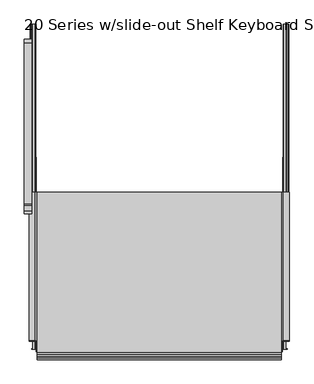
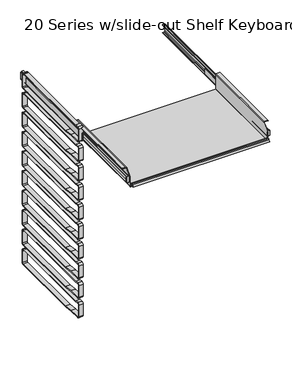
"""IFC4 building model written with IfcOpenShell, lengths in millimetres: furniture geometry, HermanMiller_Carts_CTT_StorageandTechnologyCart : 20 Series w/slide-out Shelf Keyboard Shelf."""

from ifc_helpers import new_model, si_unit, point, frame, frame_2d, origin, place, context, project, spatial, polyline, circle_curve, ellipse_curve, trimmed, segment, composite_curve, outline, extrude, source, transform, mapped, element, save
from ifc_brep_helpers import plane_surface, cylinder_surface, revolved_surface, advanced_brep


def furniture_20_series_w_slide_out_shelf_keyboard_shelf_ee3652f7(model_context):
    return source(origin(), model_context, "Body", "SolidModel", [
        extrude(outline(polyline([(602.3829111, -201.6296804), (594.00091, -201.6296804), (594.00091, -200.3596816), (602.3829111, -200.3596816), (602.3829111, -201.6296804)])), frame((0.0, 0.0, 935.0411093), z_axis=(0.0, 0.0, 1.0), x_axis=(1.0, 0.0, 0.0)), (0.0, 0.0, 1.0), 19.05),
        extrude(outline(composite_curve([segment(polyline([(956.6310705, 599.4619048), (956.6310705, 594.2680389)]), True, "CONTINUOUS"), segment(trimmed(circle_curve(frame_2d((955.2992133, 594.2680389)), 1.3318573), [point((956.6310705, 594.2680389))], [point((955.2992133, 592.9361817))], False, "CARTESIAN"), True, "CONTINUOUS"), segment(polyline([(955.2992133, 592.9361817), (934.0076575, 592.9361817)]), True, "CONTINUOUS"), segment(trimmed(circle_curve(frame_2d((934.0076575, 594.4427638)), 1.5065821), [point((934.0076575, 592.9361817))], [point((932.5010754, 594.4427638))], False, "CARTESIAN"), True, "CONTINUOUS"), segment(polyline([(932.5010754, 594.4427638), (932.5010754, 599.4619048), (933.771056, 599.4619048), (933.771056, 594.00091), (955.3610899, 594.00091), (955.3610899, 599.4619048), (956.6310705, 599.4619048)]), True, "CONTINUOUS")], self_intersect=False)), frame((0.0, -201.6296804, 0.0), z_axis=(0.0, 1.0, 0.0), x_axis=(0.0, 0.0, 1.0)), (0.0, 0.0, 1.0), 396.8927799),
        extrude(outline(composite_curve([segment(polyline([(123.5080953, 919.7655155), (-209.7526039, 919.7655155), (-209.7526039, 931.1628222)]), True, "CONTINUOUS"), segment(trimmed(circle_curve(frame_2d((-211.0604083, 931.1628222)), 1.3078044), [point((-209.7526039, 931.1628222))], [point((-211.0604083, 932.4706266))], True, "CARTESIAN"), True, "CONTINUOUS"), segment(polyline([(-211.0604083, 932.4706266), (-215.7021569, 932.4706266)]), True, "CONTINUOUS"), segment(trimmed(circle_curve(frame_2d((-215.7021569, 930.3035413)), 2.1670854), [point((-215.7021569, 932.4706266))], [point((-217.5789081, 931.3870836))], True, "CARTESIAN"), True, "CONTINUOUS"), segment(polyline([(-217.5789081, 931.3870836), (-221.5226627, 924.5562974), (-222.8380879, 925.3157581), (-218.8374368, 932.2450919)]), True, "CONTINUOUS"), segment(trimmed(circle_curve(frame_2d((-215.8160306, 930.5006829)), 3.488819), [point((-218.8374368, 932.2450919))], [point((-215.8160306, 933.989502))], False, "CARTESIAN"), True, "CONTINUOUS"), segment(polyline([(-215.8160306, 933.989502), (-211.2428355, 933.989502)]), True, "CONTINUOUS"), segment(trimmed(circle_curve(frame_2d((-211.2428355, 930.9803587)), 3.0091432), [point((-211.2428355, 933.989502))], [point((-208.2336923, 930.9803587))], False, "CARTESIAN"), True, "CONTINUOUS"), segment(polyline([(-208.2336923, 930.9803587), (-208.2336923, 921.940753)]), True, "CONTINUOUS"), segment(trimmed(circle_curve(frame_2d((-207.0795407, 921.940753)), 1.1541516), [point((-208.2336923, 921.940753))], [point((-207.0795407, 920.7866014))], True, "CARTESIAN"), True, "CONTINUOUS"), segment(polyline([(-207.0795407, 920.7866014), (123.5080953, 920.7866014), (123.5080953, 919.7655155)]), True, "CONTINUOUS")], self_intersect=False)), frame((85.5702436, 0.0, 0.0), z_axis=(1.0, 0.0, 0.0), x_axis=(0.0, 1.0, 0.0)), (0.0, 0.0, 1.0), 504.5709892),
        extrude(outline(composite_curve([segment(trimmed(circle_curve(frame_2d((956.5209557, 602.3909193)), 3.0399889), [point((956.5209557, 605.4309082))], [point((959.457372, 603.1776794))], False, "CARTESIAN"), True, "CONTINUOUS"), segment(polyline([(959.457372, 603.1776794), (960.0980101, 600.7866331), (960.9296608, 599.8340906)]), True, "CONTINUOUS"), segment(trimmed(circle_curve(frame_2d((958.2402234, 597.4859827)), 3.57025), [point((960.9296608, 599.8340906))], [point((960.6549191, 594.8561672))], False, "CARTESIAN"), True, "CONTINUOUS"), segment(polyline([(960.6549191, 594.8561672), (959.723469, 594.00091), (959.1312086, 595.1243697), (959.7214513, 595.6886846)]), True, "CONTINUOUS"), segment(trimmed(circle_curve(frame_2d((957.9812682, 597.5088217)), 2.5181613), [point((959.7214513, 595.6886846))], [point((959.6259905, 599.4156581))], True, "CARTESIAN"), True, "CONTINUOUS"), segment(polyline([(959.6259905, 599.4156581), (959.0076696, 599.9489844), (958.3335089, 602.4650204)]), True, "CONTINUOUS"), segment(trimmed(circle_curve(frame_2d((956.123391, 601.872829)), 2.2880803), [point((958.3335089, 602.4650204))], [point((956.123391, 604.1609094))], True, "CARTESIAN"), True, "CONTINUOUS"), segment(polyline([(956.123391, 604.1609094), (933.0149847, 604.1609094)]), True, "CONTINUOUS"), segment(trimmed(circle_curve(frame_2d((933.0149847, 601.872829)), 2.2880803), [point((933.0149847, 604.1609094))], [point((930.8048668, 602.4650204))], True, "CARTESIAN"), True, "CONTINUOUS"), segment(polyline([(930.8048668, 602.4650204), (930.1307061, 599.9489844), (929.5123852, 599.4156581)]), True, "CONTINUOUS"), segment(trimmed(circle_curve(frame_2d((931.1571075, 597.5088217)), 2.5181613), [point((929.5123852, 599.4156581))], [point((929.4169244, 595.6886846))], True, "CARTESIAN"), True, "CONTINUOUS"), segment(polyline([(929.4169244, 595.6886846), (930.0071671, 595.1243697), (929.4149067, 594.00091), (928.4834566, 594.8561672)]), True, "CONTINUOUS"), segment(trimmed(circle_curve(frame_2d((930.8981523, 597.4859827)), 3.57025), [point((928.4834566, 594.8561672))], [point((928.2087149, 599.8340906))], False, "CARTESIAN"), True, "CONTINUOUS"), segment(polyline([(928.2087149, 599.8340906), (929.0403656, 600.7866331), (929.6810037, 603.1776794)]), True, "CONTINUOUS"), segment(trimmed(circle_curve(frame_2d((932.61742, 602.3909193)), 3.0399889), [point((929.6810037, 603.1776794))], [point((932.61742, 605.4309082))], False, "CARTESIAN"), True, "CONTINUOUS"), segment(polyline([(932.61742, 605.4309082), (956.5209557, 605.4309082)]), True, "CONTINUOUS")], self_intersect=False)), frame((0.0, 77.7880935, 0.0), z_axis=(0.0, 1.0, 0.0), x_axis=(0.0, 0.0, 1.0)), (0.0, 0.0, 1.0), 392.4300073),
        extrude(outline(composite_curve([segment(polyline([(956.5209557, 70.33024), (932.61742, 70.33024)]), True, "CONTINUOUS"), segment(trimmed(circle_curve(frame_2d((932.61742, 73.3702288)), 3.0399889), [point((932.61742, 70.33024))], [point((929.6810037, 72.5834687))], False, "CARTESIAN"), True, "CONTINUOUS"), segment(polyline([(929.6810037, 72.5834687), (929.0403656, 74.974515), (928.2087149, 75.9270575)]), True, "CONTINUOUS"), segment(trimmed(circle_curve(frame_2d((930.8981523, 78.2751655)), 3.57025), [point((928.2087149, 75.9270575))], [point((928.4834566, 80.9049809))], False, "CARTESIAN"), True, "CONTINUOUS"), segment(polyline([(928.4834566, 80.9049809), (929.4149067, 81.7602381), (930.0071671, 80.6367784), (929.4169244, 80.0724635)]), True, "CONTINUOUS"), segment(trimmed(circle_curve(frame_2d((931.1571075, 78.2523264)), 2.5181613), [point((929.4169244, 80.0724635))], [point((929.5123852, 76.34549))], True, "CARTESIAN"), True, "CONTINUOUS"), segment(polyline([(929.5123852, 76.34549), (930.1307061, 75.8121637), (930.8048668, 73.2961278)]), True, "CONTINUOUS"), segment(trimmed(circle_curve(frame_2d((933.0149847, 73.8883191)), 2.2880803), [point((930.8048668, 73.2961278))], [point((933.0149847, 71.6002387))], True, "CARTESIAN"), True, "CONTINUOUS"), segment(polyline([(933.0149847, 71.6002387), (956.123391, 71.6002387)]), True, "CONTINUOUS"), segment(trimmed(circle_curve(frame_2d((956.123391, 73.8883191)), 2.2880803), [point((956.123391, 71.6002387))], [point((958.3335089, 73.2961278))], True, "CARTESIAN"), True, "CONTINUOUS"), segment(polyline([(958.3335089, 73.2961278), (959.0076696, 75.8121637), (959.6259905, 76.34549)]), True, "CONTINUOUS"), segment(trimmed(circle_curve(frame_2d((957.9812682, 78.2523264)), 2.5181613), [point((959.6259905, 76.34549))], [point((959.7214513, 80.0724635))], True, "CARTESIAN"), True, "CONTINUOUS"), segment(polyline([(959.7214513, 80.0724635), (959.1312086, 80.6367784), (959.723469, 81.7602381), (960.6549191, 80.9049809)]), True, "CONTINUOUS"), segment(trimmed(circle_curve(frame_2d((958.2402234, 78.2751655)), 3.57025), [point((960.6549191, 80.9049809))], [point((960.9296608, 75.9270575))], False, "CARTESIAN"), True, "CONTINUOUS"), segment(polyline([(960.9296608, 75.9270575), (960.0980101, 74.974515), (959.457372, 72.5834687)]), True, "CONTINUOUS"), segment(trimmed(circle_curve(frame_2d((956.5209557, 73.3702288)), 3.0399889), [point((959.457372, 72.5834687))], [point((956.5209557, 70.33024))], False, "CARTESIAN"), True, "CONTINUOUS")], self_intersect=False)), frame((0.0, 77.7880935, 0.0), z_axis=(0.0, 1.0, 0.0), x_axis=(0.0, 0.0, 1.0)), (0.0, 0.0, 1.0), 392.4300073),
        advanced_brep(
        [(76.2992434, -201.6296804, 956.6310705), (76.2992434, -201.6296804, 955.3610899), (81.7602381, -201.6296804, 955.3610899), (81.7602381, -201.6296804, 954.0911093), (73.3782371, -201.6296804, 954.0911093), (73.3782371, -201.6296804, 935.0411093), (81.7602381, -201.6296804, 935.0411093), (81.7602381, -201.6296804, 933.771056), (76.2992434, -201.6296804, 933.771056), (76.2992434, -201.6296804, 932.5010754), (81.3183843, -201.6296804, 932.5010754), (82.8249665, -201.6296804, 934.0076575), (82.8249665, -201.6296804, 955.2992133), (81.4931092, -201.6296804, 956.6310705), (76.2992434, 195.2630995, 956.6310705), (81.4931092, 195.2630995, 956.6310705), (82.8249665, 195.2630995, 955.2992133), (82.8249665, 195.2630995, 934.0076575), (81.3183843, 195.2630995, 932.5010754), (76.2992434, 195.2630995, 932.5010754), (76.2992434, 195.2630995, 933.771056), (81.7602381, 195.2630995, 933.771056), (81.7602381, 195.2630995, 955.3610899), (76.2992434, 195.2630995, 955.3610899), (81.7602381, -200.3596816, 935.0411093), (81.7602381, -200.3596816, 954.0911093), (73.3782371, -200.3596816, 954.0911093), (73.3782371, -200.3596816, 935.0411093)],
        [
            (0, 1),
            (1, 2),
            (2, 3),
            (3, 4),
            (4, 5),
            (5, 6),
            (6, 7),
            (7, 8),
            (8, 9),
            (9, 10),
            (10, 11, circle_curve(frame((81.3183843, -201.6296804, 934.0076575), z_axis=(0.0, -1.0, 0.0), x_axis=(1.0, 0.0, 0.0)), 1.5065821)),
            (11, 12),
            (12, 13, circle_curve(frame((81.4931092, -201.6296804, 955.2992133), z_axis=(0.0, -1.0, 0.0), x_axis=(1.0, 0.0, 0.0)), 1.3318573)),
            (13, 0),
            (14, 15),
            (15, 16, circle_curve(frame((81.4931092, 195.2630995, 955.2992133), z_axis=(0.0, 1.0, 0.0), x_axis=(1.0, 0.0, 0.0)), 1.3318573)),
            (16, 17),
            (17, 18, circle_curve(frame((81.3183843, 195.2630995, 934.0076575), z_axis=(0.0, 1.0, 0.0), x_axis=(1.0, 0.0, 0.0)), 1.5065821)),
            (18, 19),
            (19, 20),
            (20, 21),
            (21, 22),
            (22, 23),
            (23, 14),
            (0, 14),
            (23, 1),
            (22, 2),
            (21, 7),
            (6, 24),
            (24, 25),
            (25, 3),
            (20, 8),
            (19, 9),
            (18, 10),
            (17, 11),
            (16, 12),
            (15, 13),
            (26, 25),
            (24, 27),
            (27, 26),
            (27, 5),
            (4, 26),
        ],
        [
            plane_surface(frame((76.2992434, -201.6296804, 956.6310705), z_axis=(0.0, -1.0, 0.0), x_axis=(0.0, 0.0, -1.0))),
            plane_surface(frame((76.2992434, 195.2630995, 956.6310705), z_axis=(0.0, 1.0, 0.0), x_axis=(0.0, 0.0, 1.0))),
            plane_surface(frame((76.2992434, -201.6296804, 956.6310705), z_axis=(-1.0, 0.0, 0.0), x_axis=(0.0, 1.0, 0.0))),
            plane_surface(frame((76.2992434, -201.6296804, 955.3610899), z_axis=(0.0, 0.0, -1.0), x_axis=(0.0, 1.0, 0.0))),
            plane_surface(frame((81.7602381, -201.6296804, 955.3610899), z_axis=(-1.0, 0.0, 0.0), x_axis=(0.0, 1.0, 0.0))),
            plane_surface(frame((81.7602381, -201.6296804, 933.771056), z_axis=(0.0, 0.0, 1.0), x_axis=(0.0, 1.0, 0.0))),
            plane_surface(frame((76.2992434, -201.6296804, 933.771056), z_axis=(-1.0, 0.0, 0.0), x_axis=(0.0, 1.0, 0.0))),
            plane_surface(frame((76.2992434, -201.6296804, 932.5010754), z_axis=(0.0, 0.0, -1.0), x_axis=(0.0, 1.0, 0.0))),
            cylinder_surface(frame((81.3183843, 195.2630995, 934.0076575), z_axis=(0.0, -1.0, 0.0), x_axis=(1.0, 0.0, 0.0)), 1.5065821),
            plane_surface(frame((82.8249665, -201.6296804, 934.0076575), z_axis=(1.0, 0.0, 0.0), x_axis=(0.0, 1.0, 0.0))),
            cylinder_surface(frame((81.4931092, 195.2630995, 955.2992133), z_axis=(0.0, -1.0, 0.0), x_axis=(1.0, 0.0, 0.0)), 1.3318573),
            plane_surface(frame((81.4931092, -201.6296804, 956.6310705), z_axis=(0.0, 0.0, 1.0), x_axis=(0.0, 1.0, 0.0))),
            plane_surface(frame((73.3782371, -200.3596816, 954.0911093), z_axis=(0.0, 1.0, 0.0), x_axis=(0.0, 0.0, 1.0))),
            plane_surface(frame((73.3782371, -201.6296804, 954.0911093), z_axis=(-1.0, 0.0, 0.0), x_axis=(0.0, 1.0, 0.0))),
            plane_surface(frame((73.3782371, -201.6296804, 935.0411093), z_axis=(0.0, 0.0, -1.0), x_axis=(0.0, 1.0, 0.0))),
            plane_surface(frame((81.7602381, -201.6296804, 954.0911093), z_axis=(0.0, 0.0, 1.0), x_axis=(0.0, 1.0, 0.0))),
        ],
        [
            (0, [[1, 2, 3, 4, 5, 6, 7, 8, 9, 10, 11, 12, 13, 14]]),
            (1, [[15, 16, 17, 18, 19, 20, 21, 22, 23, 24]]),
            (2, [[-1, 25, -24, 26]]),
            (3, [[-2, -26, -23, 27]]),
            (4, [[-22, 28, -7, 29, 30, 31, -3, -27]]),
            (5, [[-8, -28, -21, 32]]),
            (6, [[-9, -32, -20, 33]]),
            (7, [[-10, -33, -19, 34]]),
            (8, [[-11, -34, -18, 35]]),
            (9, [[-12, -35, -17, 36]]),
            (10, [[-13, -36, -16, 37]]),
            (11, [[-14, -37, -15, -25]]),
            (12, [[38, -30, 39, 40]]),
            (13, [[-40, 41, -5, 42]]),
            (14, [[-39, -29, -6, -41]]),
            (15, [[-38, -42, -4, -31]]),
        ],
    ),
        advanced_brep(
        [(591.1548847, -206.7096937, 920.7866014), (590.1337988, -206.7096937, 919.7655155), (85.3650004, -206.7096937, 919.7655155), (84.3439145, -206.7096937, 920.7866014), (84.3439145, -206.7096937, 954.4452161), (82.8249665, -206.7096937, 954.4452161), (82.8249665, -206.7096937, 920.9919173), (85.5702436, -206.7096937, 918.2466402), (589.9285556, -206.7096937, 918.2466402), (592.6738327, -206.7096937, 920.9919173), (592.6738327, -206.7096937, 954.4452161), (591.1548847, -206.7096937, 954.4452161), (591.1548847, 123.5080953, 920.7866014), (591.1548847, 123.5080953, 977.313101), (594.0643648, 123.5080953, 980.2225811), (607.0298605, 123.5080953, 980.2225811), (607.0298605, 123.5080953, 978.7037058), (594.4225259, 123.5080953, 978.7037058), (592.6738327, 123.5080953, 976.9550126), (592.6738327, 123.5080953, 920.9919173), (589.9285556, 123.5080953, 918.2466402), (85.5702436, 123.5080953, 918.2466402), (82.8249665, 123.5080953, 920.9919173), (82.8249665, 123.5080953, 976.9550126), (81.0762733, 123.5080953, 978.7037058), (68.4689387, 123.5080953, 978.7037058), (68.4689387, 123.5080953, 980.2225811), (81.4344344, 123.5080953, 980.2225811), (84.3439145, 123.5080953, 977.313101), (84.3439145, 123.5080953, 920.7866014), (85.3650004, 123.5080953, 919.7655155), (590.1337988, 123.5080953, 919.7655155), (84.3439145, -185.7431785, 977.313101), (84.3439145, -202.9899353, 960.066326), (81.4344344, -182.8337016, 980.2225811), (68.4689387, -182.8337016, 980.2225811), (68.4689387, -184.3525753, 978.7037058), (81.0762733, -184.3525753, 978.7037058), (82.8249665, -186.1012666, 976.9550126), (82.8249665, -202.9899353, 960.066326), (592.6738327, -186.1012666, 976.9550126), (592.6738327, -202.9899353, 960.066326), (594.4225259, -184.3525753, 978.7037058), (607.0298605, -184.3525753, 978.7037058), (607.0298605, -182.8337016, 980.2225811), (594.0643648, -182.8337016, 980.2225811), (591.1548847, -185.7431785, 977.313101), (591.1548847, -202.9899353, 960.066326)],
        [
            (0, 1),
            (1, 2),
            (2, 3),
            (3, 4),
            (4, 5),
            (5, 6),
            (6, 7, circle_curve(frame((85.5702436, -206.7096937, 920.9919173), z_axis=(0.0, -1.0, 0.0), x_axis=(1.0, 0.0, 0.0)), 2.7452771)),
            (7, 8),
            (8, 9, circle_curve(frame((589.9285556, -206.7096937, 920.9919173), z_axis=(0.0, -1.0, 0.0), x_axis=(1.0, 0.0, 0.0)), 2.7452771)),
            (9, 10),
            (10, 11),
            (11, 0),
            (12, 13),
            (13, 14, circle_curve(frame((594.0643648, 123.5080953, 977.313101), z_axis=(0.0, 1.0, 0.0), x_axis=(1.0, 0.0, 0.0)), 2.9094801)),
            (14, 15),
            (15, 16),
            (16, 17),
            (17, 18, circle_curve(frame((594.4225259, 123.5080953, 976.9550126), z_axis=(0.0, -1.0, 0.0), x_axis=(1.0, 0.0, 0.0)), 1.7486932)),
            (18, 19),
            (19, 20, circle_curve(frame((589.9285556, 123.5080953, 920.9919173), z_axis=(0.0, 1.0, 0.0), x_axis=(1.0, 0.0, 0.0)), 2.7452771)),
            (20, 21),
            (21, 22, circle_curve(frame((85.5702436, 123.5080953, 920.9919173), z_axis=(0.0, 1.0, 0.0), x_axis=(1.0, 0.0, 0.0)), 2.7452771)),
            (22, 23),
            (23, 24, circle_curve(frame((81.0762733, 123.5080953, 976.9550126), z_axis=(0.0, -1.0, 0.0), x_axis=(1.0, 0.0, 0.0)), 1.7486932)),
            (24, 25),
            (25, 26),
            (26, 27),
            (27, 28, circle_curve(frame((81.4344344, 123.5080953, 977.313101), z_axis=(0.0, 1.0, 0.0), x_axis=(1.0, 0.0, 0.0)), 2.9094801)),
            (28, 29),
            (29, 30),
            (30, 31),
            (31, 12),
            (0, 12),
            (31, 1),
            (30, 2),
            (29, 3),
            (28, 32),
            (32, 33),
            (33, 4, circle_curve(frame((84.3439145, -191.0422174, 948.1186207), z_axis=(1.0, 0.0, 0.0), x_axis=(0.0, -1.0, 0.0)), 16.8966158)),
            (27, 34),
            (34, 32, ellipse_curve(frame((81.4344344, -185.7431785, 977.313101), z_axis=(0.0, 0.7071071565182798, -0.7071064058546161), x_axis=(0.0, -0.7071064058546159, -0.70710715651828)), 4.114624, 2.9094801)),
            (26, 35),
            (35, 34),
            (25, 36),
            (36, 35),
            (24, 37),
            (37, 36),
            (23, 38),
            (38, 37, ellipse_curve(frame((81.0762733, -186.1012666, 976.9550126), z_axis=(0.0, -0.7071071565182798, 0.7071064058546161), x_axis=(0.0, 0.7071064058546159, 0.70710715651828)), 2.4730243, 1.7486932)),
            (22, 6),
            (5, 39, circle_curve(frame((82.8249665, -191.0422174, 948.1186207), z_axis=(-1.0, 0.0, 0.0), x_axis=(0.0, -1.0, 0.0)), 16.8966158)),
            (39, 38),
            (21, 7),
            (20, 8),
            (19, 9),
            (18, 40),
            (40, 41),
            (41, 10, circle_curve(frame((592.6738327, -191.0422174, 948.1186207), z_axis=(1.0, 0.0, 0.0), x_axis=(0.0, -1.0, 0.0)), 16.8966158)),
            (17, 42),
            (42, 40, ellipse_curve(frame((594.4225259, -186.1012666, 976.9550126), z_axis=(0.0, -0.7071071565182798, 0.7071064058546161), x_axis=(0.0, 0.7071064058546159, 0.70710715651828)), 2.4730243, 1.7486932)),
            (16, 43),
            (43, 42),
            (15, 44),
            (44, 43),
            (14, 45),
            (45, 44),
            (13, 46),
            (46, 45, ellipse_curve(frame((594.0643648, -185.7431785, 977.313101), z_axis=(0.0, 0.7071071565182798, -0.7071064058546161), x_axis=(0.0, -0.7071064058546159, -0.70710715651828)), 4.114624, 2.9094801)),
            (11, 47, circle_curve(frame((591.1548847, -191.0422174, 948.1186207), z_axis=(-1.0, 0.0, 0.0), x_axis=(0.0, -1.0, 0.0)), 16.8966158)),
            (47, 46),
            (39, 33),
            (47, 41),
        ],
        [
            plane_surface(frame((590.1337988, -206.7096937, 919.7655155), z_axis=(0.0, -1.0, 0.0), x_axis=(-0.7071067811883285, 0.0, -0.7071067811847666))),
            plane_surface(frame((590.1337988, 123.5080953, 919.7655155), z_axis=(0.0, 1.0, 0.0), x_axis=(0.7071067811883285, 0.0, 0.7071067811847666))),
            plane_surface(frame((591.1548847, -206.7096937, 920.7866014), z_axis=(-0.7071067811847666, 0.0, 0.7071067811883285), x_axis=(0.0, 1.0, 0.0))),
            plane_surface(frame((590.1337988, -206.7096937, 919.7655155), z_axis=(0.0, 0.0, 1.0), x_axis=(0.0, 1.0, 0.0))),
            plane_surface(frame((85.3650004, -206.7096937, 919.7655155), z_axis=(0.7071067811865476, 0.0, 0.7071067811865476), x_axis=(0.0, 1.0, 0.0))),
            plane_surface(frame((84.3439145, -206.7096937, 920.7866014), z_axis=(1.0, 0.0, 0.0), x_axis=(0.0, 1.0, 0.0))),
            cylinder_surface(frame((81.4344344, 123.5080953, 977.313101), z_axis=(0.0, -1.0, 0.0), x_axis=(1.0, 0.0, 0.0)), 2.9094801),
            plane_surface(frame((81.4344344, -206.7096937, 980.2225811), z_axis=(0.0, 0.0, 1.0), x_axis=(0.0, 1.0, 0.0))),
            plane_surface(frame((68.4689387, -206.7096937, 980.2225811), z_axis=(-1.0, 0.0, 0.0), x_axis=(0.0, 1.0, 0.0))),
            plane_surface(frame((68.4689387, -206.7096937, 978.7037058), z_axis=(0.0, 0.0, -1.0), x_axis=(0.0, 1.0, 0.0))),
            revolved_surface(polyline([(82.8249665, 123.5080953, 976.9550126), (82.8249665, -187.84995792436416, 976.9550126)]), (81.0762733, 123.5080953, 976.9550126), (0.0, 1.0, 0.0)),
            plane_surface(frame((82.8249665, -206.7096937, 976.9550126), z_axis=(-1.0, 0.0, 0.0), x_axis=(0.0, 1.0, 0.0))),
            cylinder_surface(frame((85.5702436, 123.5080953, 920.9919173), z_axis=(0.0, -1.0, 0.0), x_axis=(1.0, 0.0, 0.0)), 2.7452771),
            plane_surface(frame((85.5702436, -206.7096937, 918.2466402), z_axis=(0.0, 0.0, -1.0), x_axis=(0.0, 1.0, 0.0))),
            cylinder_surface(frame((589.9285556, 123.5080953, 920.9919173), z_axis=(0.0, -1.0, 0.0), x_axis=(1.0, 0.0, 0.0)), 2.7452771),
            plane_surface(frame((592.6738327, -206.7096937, 920.9919173), z_axis=(1.0, 0.0, 0.0), x_axis=(0.0, 1.0, 0.0))),
            revolved_surface(polyline([(596.1712191, 123.5080953, 976.9550126), (596.1712191, -187.84995792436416, 976.9550126)]), (594.4225259, 123.5080953, 976.9550126), (0.0, 1.0, 0.0)),
            plane_surface(frame((594.4225259, -206.7096937, 978.7037058), z_axis=(0.0, 0.0, -1.0), x_axis=(0.0, 1.0, 0.0))),
            plane_surface(frame((607.0298605, -206.7096937, 978.7037058), z_axis=(1.0, 0.0, 0.0), x_axis=(0.0, 1.0, 0.0))),
            plane_surface(frame((607.0298605, -206.7096937, 980.2225811), z_axis=(0.0, 0.0, 1.0), x_axis=(0.0, 1.0, 0.0))),
            cylinder_surface(frame((594.0643648, 123.5080953, 977.313101), z_axis=(0.0, -1.0, 0.0), x_axis=(1.0, 0.0, 0.0)), 2.9094801),
            plane_surface(frame((591.1548847, -206.7096937, 977.313101), z_axis=(-1.0, 0.0, 0.0), x_axis=(0.0, 1.0, 0.0))),
            plane_surface(frame((747.8869761, -202.9899353, 960.066326), z_axis=(0.0, -0.7071071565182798, 0.7071064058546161), x_axis=(-1.0, 0.0, 0.0))),
            cylinder_surface(frame((0.0, -191.0422174, 948.1186207), z_axis=(-1.0, 0.0, 0.0), x_axis=(0.0, -1.0, 0.0)), 16.8966158),
        ],
        [
            (0, [[1, 2, 3, 4, 5, 6, 7, 8, 9, 10, 11, 12]]),
            (1, [[13, 14, 15, 16, 17, 18, 19, 20, 21, 22, 23, 24, 25, 26, 27, 28, 29, 30, 31, 32]]),
            (2, [[-1, 33, -32, 34]]),
            (3, [[-2, -34, -31, 35]]),
            (4, [[-3, -35, -30, 36]]),
            (5, [[-29, 37, 38, 39, -4, -36]]),
            (6, [[-28, 40, 41, -37]]),
            (7, [[-27, 42, 43, -40]]),
            (8, [[-26, 44, 45, -42]]),
            (9, [[-25, 46, 47, -44]]),
            (10, [[-24, 48, 49, -46]]),
            (11, [[-23, 50, -6, 51, 52, -48]]),
            (12, [[-7, -50, -22, 53]]),
            (13, [[-8, -53, -21, 54]]),
            (14, [[-9, -54, -20, 55]]),
            (15, [[-19, 56, 57, 58, -10, -55]]),
            (16, [[-18, 59, 60, -56]]),
            (17, [[-17, 61, 62, -59]]),
            (18, [[-16, 63, 64, -61]]),
            (19, [[-15, 65, 66, -63]]),
            (20, [[-14, 67, 68, -65]]),
            (21, [[-13, -33, -12, 69, 70, -67]]),
            (22, [[71, -38, -41, -43, -45, -47, -49, -52]]),
            (22, [[72, -57, -60, -62, -64, -66, -68, -70]]),
            (23, [[-71, -51, -5, -39]]),
            (23, [[-72, -69, -11, -58]]),
        ],
    ),
        extrude(outline(composite_curve([segment(trimmed(circle_curve(frame_2d((432.0829157, 288.6580583)), 7.0967816), [point((432.0829157, 295.7548399))], [point((439.1796973, 288.6580583))], False, "CARTESIAN"), True, "CONTINUOUS"), segment(polyline([(439.1796973, 288.6580583), (439.1796973, 241.5674195)]), True, "CONTINUOUS"), segment(trimmed(circle_curve(frame_2d((432.8296973, 241.5674195)), 6.35), [point((439.1796973, 241.5674195))], [point((432.8296973, 235.2174195))], False, "CARTESIAN"), True, "CONTINUOUS"), segment(polyline([(432.8296973, 235.2174195), (160.5389836, 235.2174195), (125.9538762, 240.0780421), (84.6788762, 240.0780421)]), True, "CONTINUOUS"), segment(trimmed(circle_curve(frame_2d((84.6788762, 246.4280421)), 6.35), [point((84.6788762, 240.0780421))], [point((78.3288762, 246.4280421))], False, "CARTESIAN"), True, "CONTINUOUS"), segment(polyline([(78.3288762, 246.4280421), (78.3288762, 292.452837)]), True, "CONTINUOUS"), segment(trimmed(circle_curve(frame_2d((84.6788762, 292.452837)), 6.35), [point((78.3288762, 292.452837))], [point((84.6788762, 298.802837))], False, "CARTESIAN"), True, "CONTINUOUS"), segment(polyline([(84.6788762, 298.802837), (95.8548777, 298.802837), (98.9028748, 295.7548399), (432.0829157, 295.7548399)]), True, "CONTINUOUS")], self_intersect=False), holes=[composite_curve([segment(polyline([(98.9028748, 291.7670382), (93.351533, 294.8150353), (86.3017102, 294.8150353)]), True, "CONTINUOUS"), segment(trimmed(circle_curve(frame_2d((86.3017102, 290.8300031)), 3.9850323), [point((86.3017102, 294.8150353))], [point((82.3166779, 290.8300031))], True, "CARTESIAN"), True, "CONTINUOUS"), segment(polyline([(82.3166779, 290.8300031), (82.3166779, 248.1093011)]), True, "CONTINUOUS"), segment(trimmed(circle_curve(frame_2d((86.3601352, 248.1093011)), 4.0434573), [point((82.3166779, 248.1093011))], [point((86.3601352, 244.0658438))], True, "CARTESIAN"), True, "CONTINUOUS"), segment(polyline([(86.3601352, 244.0658438), (126.2327291, 244.0658438), (160.8178365, 239.2052211), (431.735191, 239.2052211)]), True, "CONTINUOUS"), segment(trimmed(circle_curve(frame_2d((431.735191, 242.6619258)), 3.4567047), [point((431.735191, 239.2052211))], [point((435.1918957, 242.6619258))], True, "CARTESIAN"), True, "CONTINUOUS"), segment(polyline([(435.1918957, 242.6619258), (435.1918957, 287.9663635)]), True, "CONTINUOUS"), segment(trimmed(circle_curve(frame_2d((431.3912209, 287.9663635)), 3.8006747), [point((435.1918957, 287.9663635))], [point((431.3912209, 291.7670382))], True, "CARTESIAN"), True, "CONTINUOUS"), segment(polyline([(431.3912209, 291.7670382), (98.9028748, 291.7670382)]), True, "CONTINUOUS")], self_intersect=False)]), frame((58.2786012, 0.0, 0.0), z_axis=(1.0, 0.0, 0.0), x_axis=(0.0, 1.0, 0.0)), (0.0, 0.0, 1.0), 15.9147989),
        extrude(outline(composite_curve([segment(polyline([(160.5389836, 311.4174013), (125.9538762, 316.278024), (84.6788762, 316.278024)]), True, "CONTINUOUS"), segment(trimmed(circle_curve(frame_2d((84.6788762, 322.628024)), 6.35), [point((84.6788762, 316.278024))], [point((78.3288762, 322.628024))], False, "CARTESIAN"), True, "CONTINUOUS"), segment(polyline([(78.3288762, 322.628024), (78.3288762, 368.6528188)]), True, "CONTINUOUS"), segment(trimmed(circle_curve(frame_2d((84.6788762, 368.6528188)), 6.35), [point((78.3288762, 368.6528188))], [point((84.6788762, 375.0028188))], False, "CARTESIAN"), True, "CONTINUOUS"), segment(polyline([(84.6788762, 375.0028188), (95.8548777, 375.0028188), (98.9028748, 371.9548217), (432.0829157, 371.9548217)]), True, "CONTINUOUS"), segment(trimmed(circle_curve(frame_2d((432.0829157, 364.8580401)), 7.0967816), [point((432.0829157, 371.9548217))], [point((439.1796973, 364.8580401))], False, "CARTESIAN"), True, "CONTINUOUS"), segment(polyline([(439.1796973, 364.8580401), (439.1796973, 317.7674013)]), True, "CONTINUOUS"), segment(trimmed(circle_curve(frame_2d((432.8296973, 317.7674013)), 6.35), [point((439.1796973, 317.7674013))], [point((432.8296973, 311.4174013))], False, "CARTESIAN"), True, "CONTINUOUS"), segment(polyline([(432.8296973, 311.4174013), (160.5389836, 311.4174013)]), True, "CONTINUOUS")], self_intersect=False), holes=[composite_curve([segment(polyline([(98.9028748, 367.9670201), (93.351533, 371.0150172), (86.3017102, 371.0150172)]), True, "CONTINUOUS"), segment(trimmed(circle_curve(frame_2d((86.3017102, 367.0299849)), 3.9850323), [point((86.3017102, 371.0150172))], [point((82.3166779, 367.0299849))], True, "CARTESIAN"), True, "CONTINUOUS"), segment(polyline([(82.3166779, 367.0299849), (82.3166779, 324.3092829)]), True, "CONTINUOUS"), segment(trimmed(circle_curve(frame_2d((86.3601352, 324.3092829)), 4.0434573), [point((82.3166779, 324.3092829))], [point((86.3601352, 320.2658256))], True, "CARTESIAN"), True, "CONTINUOUS"), segment(polyline([(86.3601352, 320.2658256), (126.2327291, 320.2658256), (160.8178365, 315.405203), (431.735191, 315.405203)]), True, "CONTINUOUS"), segment(trimmed(circle_curve(frame_2d((431.735191, 318.8619076)), 3.4567047), [point((431.735191, 315.405203))], [point((435.1918957, 318.8619076))], True, "CARTESIAN"), True, "CONTINUOUS"), segment(polyline([(435.1918957, 318.8619076), (435.1918957, 364.1663454)]), True, "CONTINUOUS"), segment(trimmed(circle_curve(frame_2d((431.3912209, 364.1663454)), 3.8006747), [point((435.1918957, 364.1663454))], [point((431.3912209, 367.9670201))], True, "CARTESIAN"), True, "CONTINUOUS"), segment(polyline([(431.3912209, 367.9670201), (98.9028748, 367.9670201)]), True, "CONTINUOUS")], self_intersect=False)]), frame((58.2786012, 0.0, 0.0), z_axis=(1.0, 0.0, 0.0), x_axis=(0.0, 1.0, 0.0)), (0.0, 0.0, 1.0), 15.9147989),
        extrude(outline(composite_curve([segment(polyline([(432.8296973, 387.6174013), (160.5389836, 387.6174013), (125.9538762, 392.478024), (84.6788762, 392.478024)]), True, "CONTINUOUS"), segment(trimmed(circle_curve(frame_2d((84.6788762, 398.828024)), 6.35), [point((84.6788762, 392.478024))], [point((78.3288762, 398.828024))], False, "CARTESIAN"), True, "CONTINUOUS"), segment(polyline([(78.3288762, 398.828024), (78.3288762, 444.8528188)]), True, "CONTINUOUS"), segment(trimmed(circle_curve(frame_2d((84.6788762, 444.8528188)), 6.35), [point((78.3288762, 444.8528188))], [point((84.6788762, 451.2028188))], False, "CARTESIAN"), True, "CONTINUOUS"), segment(polyline([(84.6788762, 451.2028188), (95.8548777, 451.2028188), (98.9028748, 448.1548217), (432.0829157, 448.1548217)]), True, "CONTINUOUS"), segment(trimmed(circle_curve(frame_2d((432.0829157, 441.0580401)), 7.0967816), [point((432.0829157, 448.1548217))], [point((439.1796973, 441.0580401))], False, "CARTESIAN"), True, "CONTINUOUS"), segment(polyline([(439.1796973, 441.0580401), (439.1796973, 393.9674013)]), True, "CONTINUOUS"), segment(trimmed(circle_curve(frame_2d((432.8296973, 393.9674013)), 6.35), [point((439.1796973, 393.9674013))], [point((432.8296973, 387.6174013))], False, "CARTESIAN"), True, "CONTINUOUS")], self_intersect=False), holes=[composite_curve([segment(polyline([(98.9028748, 444.1670201), (93.351533, 447.2150172), (86.3017102, 447.2150172)]), True, "CONTINUOUS"), segment(trimmed(circle_curve(frame_2d((86.3017102, 443.2299849)), 3.9850323), [point((86.3017102, 447.2150172))], [point((82.3166779, 443.2299849))], True, "CARTESIAN"), True, "CONTINUOUS"), segment(polyline([(82.3166779, 443.2299849), (82.3166779, 400.5092829)]), True, "CONTINUOUS"), segment(trimmed(circle_curve(frame_2d((86.3601352, 400.5092829)), 4.0434573), [point((82.3166779, 400.5092829))], [point((86.3601352, 396.4658256))], True, "CARTESIAN"), True, "CONTINUOUS"), segment(polyline([(86.3601352, 396.4658256), (126.2327291, 396.4658256), (160.8178365, 391.605203), (431.735191, 391.605203)]), True, "CONTINUOUS"), segment(trimmed(circle_curve(frame_2d((431.735191, 395.0619076)), 3.4567047), [point((431.735191, 391.605203))], [point((435.1918957, 395.0619076))], True, "CARTESIAN"), True, "CONTINUOUS"), segment(polyline([(435.1918957, 395.0619076), (435.1918957, 440.3663454)]), True, "CONTINUOUS"), segment(trimmed(circle_curve(frame_2d((431.3912209, 440.3663454)), 3.8006747), [point((435.1918957, 440.3663454))], [point((431.3912209, 444.1670201))], True, "CARTESIAN"), True, "CONTINUOUS"), segment(polyline([(431.3912209, 444.1670201), (98.9028748, 444.1670201)]), True, "CONTINUOUS")], self_intersect=False)]), frame((58.2786012, 0.0, 0.0), z_axis=(1.0, 0.0, 0.0), x_axis=(0.0, 1.0, 0.0)), (0.0, 0.0, 1.0), 15.9147989),
        extrude(outline(composite_curve([segment(polyline([(160.5389836, 463.8174013), (125.9538762, 468.678024), (84.6788762, 468.678024)]), True, "CONTINUOUS"), segment(trimmed(circle_curve(frame_2d((84.6788762, 475.028024)), 6.35), [point((84.6788762, 468.678024))], [point((78.3288762, 475.028024))], False, "CARTESIAN"), True, "CONTINUOUS"), segment(polyline([(78.3288762, 475.028024), (78.3288762, 521.0528188)]), True, "CONTINUOUS"), segment(trimmed(circle_curve(frame_2d((84.6788762, 521.0528188)), 6.35), [point((78.3288762, 521.0528188))], [point((84.6788762, 527.4028188))], False, "CARTESIAN"), True, "CONTINUOUS"), segment(polyline([(84.6788762, 527.4028188), (95.8548777, 527.4028188), (98.9028748, 524.3548217), (432.0829157, 524.3548217)]), True, "CONTINUOUS"), segment(trimmed(circle_curve(frame_2d((432.0829157, 517.2580401)), 7.0967816), [point((432.0829157, 524.3548217))], [point((439.1796973, 517.2580401))], False, "CARTESIAN"), True, "CONTINUOUS"), segment(polyline([(439.1796973, 517.2580401), (439.1796973, 470.1674013)]), True, "CONTINUOUS"), segment(trimmed(circle_curve(frame_2d((432.8296973, 470.1674013)), 6.35), [point((439.1796973, 470.1674013))], [point((432.8296973, 463.8174013))], False, "CARTESIAN"), True, "CONTINUOUS"), segment(polyline([(432.8296973, 463.8174013), (160.5389836, 463.8174013)]), True, "CONTINUOUS")], self_intersect=False), holes=[composite_curve([segment(polyline([(98.9028748, 520.3670201), (93.351533, 523.4150172), (86.3017102, 523.4150172)]), True, "CONTINUOUS"), segment(trimmed(circle_curve(frame_2d((86.3017102, 519.4299849)), 3.9850323), [point((86.3017102, 523.4150172))], [point((82.3166779, 519.4299849))], True, "CARTESIAN"), True, "CONTINUOUS"), segment(polyline([(82.3166779, 519.4299849), (82.3166779, 476.7092829)]), True, "CONTINUOUS"), segment(trimmed(circle_curve(frame_2d((86.3601352, 476.7092829)), 4.0434573), [point((82.3166779, 476.7092829))], [point((86.3601352, 472.6658256))], True, "CARTESIAN"), True, "CONTINUOUS"), segment(polyline([(86.3601352, 472.6658256), (126.2327291, 472.6658256), (160.8178365, 467.805203), (431.735191, 467.805203)]), True, "CONTINUOUS"), segment(trimmed(circle_curve(frame_2d((431.735191, 471.2619076)), 3.4567047), [point((431.735191, 467.805203))], [point((435.1918957, 471.2619076))], True, "CARTESIAN"), True, "CONTINUOUS"), segment(polyline([(435.1918957, 471.2619076), (435.1918957, 516.5663454)]), True, "CONTINUOUS"), segment(trimmed(circle_curve(frame_2d((431.3912209, 516.5663454)), 3.8006747), [point((435.1918957, 516.5663454))], [point((431.3912209, 520.3670201))], True, "CARTESIAN"), True, "CONTINUOUS"), segment(polyline([(431.3912209, 520.3670201), (98.9028748, 520.3670201)]), True, "CONTINUOUS")], self_intersect=False)]), frame((58.2786012, 0.0, 0.0), z_axis=(1.0, 0.0, 0.0), x_axis=(0.0, 1.0, 0.0)), (0.0, 0.0, 1.0), 15.9147989),
        extrude(outline(composite_curve([segment(polyline([(432.8296973, 540.0174013), (160.5389836, 540.0174013), (125.9538762, 544.878024), (84.6788762, 544.878024)]), True, "CONTINUOUS"), segment(trimmed(circle_curve(frame_2d((84.6788762, 551.228024)), 6.35), [point((84.6788762, 544.878024))], [point((78.3288762, 551.228024))], False, "CARTESIAN"), True, "CONTINUOUS"), segment(polyline([(78.3288762, 551.228024), (78.3288762, 597.2528188)]), True, "CONTINUOUS"), segment(trimmed(circle_curve(frame_2d((84.6788762, 597.2528188)), 6.35), [point((78.3288762, 597.2528188))], [point((84.6788762, 603.6028188))], False, "CARTESIAN"), True, "CONTINUOUS"), segment(polyline([(84.6788762, 603.6028188), (95.8548777, 603.6028188), (98.9028748, 600.5548217), (432.0829157, 600.5548217)]), True, "CONTINUOUS"), segment(trimmed(circle_curve(frame_2d((432.0829157, 593.4580401)), 7.0967816), [point((432.0829157, 600.5548217))], [point((439.1796973, 593.4580401))], False, "CARTESIAN"), True, "CONTINUOUS"), segment(polyline([(439.1796973, 593.4580401), (439.1796973, 546.3674013)]), True, "CONTINUOUS"), segment(trimmed(circle_curve(frame_2d((432.8296973, 546.3674013)), 6.35), [point((439.1796973, 546.3674013))], [point((432.8296973, 540.0174013))], False, "CARTESIAN"), True, "CONTINUOUS")], self_intersect=False), holes=[composite_curve([segment(polyline([(98.9028748, 596.5670201), (93.351533, 599.6150172), (86.3017102, 599.6150172)]), True, "CONTINUOUS"), segment(trimmed(circle_curve(frame_2d((86.3017102, 595.6299849)), 3.9850323), [point((86.3017102, 599.6150172))], [point((82.3166779, 595.6299849))], True, "CARTESIAN"), True, "CONTINUOUS"), segment(polyline([(82.3166779, 595.6299849), (82.3166779, 552.9092829)]), True, "CONTINUOUS"), segment(trimmed(circle_curve(frame_2d((86.3601352, 552.9092829)), 4.0434573), [point((82.3166779, 552.9092829))], [point((86.3601352, 548.8658256))], True, "CARTESIAN"), True, "CONTINUOUS"), segment(polyline([(86.3601352, 548.8658256), (126.2327291, 548.8658256), (160.8178365, 544.005203), (431.735191, 544.005203)]), True, "CONTINUOUS"), segment(trimmed(circle_curve(frame_2d((431.735191, 547.4619076)), 3.4567047), [point((431.735191, 544.005203))], [point((435.1918957, 547.4619076))], True, "CARTESIAN"), True, "CONTINUOUS"), segment(polyline([(435.1918957, 547.4619076), (435.1918957, 592.7663454)]), True, "CONTINUOUS"), segment(trimmed(circle_curve(frame_2d((431.3912209, 592.7663454)), 3.8006747), [point((435.1918957, 592.7663454))], [point((431.3912209, 596.5670201))], True, "CARTESIAN"), True, "CONTINUOUS"), segment(polyline([(431.3912209, 596.5670201), (98.9028748, 596.5670201)]), True, "CONTINUOUS")], self_intersect=False)]), frame((58.2786012, 0.0, 0.0), z_axis=(1.0, 0.0, 0.0), x_axis=(0.0, 1.0, 0.0)), (0.0, 0.0, 1.0), 15.9147989),
        extrude(outline(composite_curve([segment(polyline([(160.5389836, 616.2174013), (125.9538762, 621.078024), (84.6788762, 621.078024)]), True, "CONTINUOUS"), segment(trimmed(circle_curve(frame_2d((84.6788762, 627.428024)), 6.35), [point((84.6788762, 621.078024))], [point((78.3288762, 627.428024))], False, "CARTESIAN"), True, "CONTINUOUS"), segment(polyline([(78.3288762, 627.428024), (78.3288762, 673.4528188)]), True, "CONTINUOUS"), segment(trimmed(circle_curve(frame_2d((84.6788762, 673.4528188)), 6.35), [point((78.3288762, 673.4528188))], [point((84.6788762, 679.8028188))], False, "CARTESIAN"), True, "CONTINUOUS"), segment(polyline([(84.6788762, 679.8028188), (95.8548777, 679.8028188), (98.9028748, 676.7548217), (432.0829157, 676.7548217)]), True, "CONTINUOUS"), segment(trimmed(circle_curve(frame_2d((432.0829157, 669.6580401)), 7.0967816), [point((432.0829157, 676.7548217))], [point((439.1796973, 669.6580401))], False, "CARTESIAN"), True, "CONTINUOUS"), segment(polyline([(439.1796973, 669.6580401), (439.1796973, 622.5674013)]), True, "CONTINUOUS"), segment(trimmed(circle_curve(frame_2d((432.8296973, 622.5674013)), 6.35), [point((439.1796973, 622.5674013))], [point((432.8296973, 616.2174013))], False, "CARTESIAN"), True, "CONTINUOUS"), segment(polyline([(432.8296973, 616.2174013), (160.5389836, 616.2174013)]), True, "CONTINUOUS")], self_intersect=False), holes=[composite_curve([segment(polyline([(98.9028748, 672.7670201), (93.351533, 675.8150172), (86.3017102, 675.8150172)]), True, "CONTINUOUS"), segment(trimmed(circle_curve(frame_2d((86.3017102, 671.8299849)), 3.9850323), [point((86.3017102, 675.8150172))], [point((82.3166779, 671.8299849))], True, "CARTESIAN"), True, "CONTINUOUS"), segment(polyline([(82.3166779, 671.8299849), (82.3166779, 629.1092829)]), True, "CONTINUOUS"), segment(trimmed(circle_curve(frame_2d((86.3601352, 629.1092829)), 4.0434573), [point((82.3166779, 629.1092829))], [point((86.3601352, 625.0658256))], True, "CARTESIAN"), True, "CONTINUOUS"), segment(polyline([(86.3601352, 625.0658256), (126.2327291, 625.0658256), (160.8178365, 620.205203), (431.735191, 620.205203)]), True, "CONTINUOUS"), segment(trimmed(circle_curve(frame_2d((431.735191, 623.6619076)), 3.4567047), [point((431.735191, 620.205203))], [point((435.1918957, 623.6619076))], True, "CARTESIAN"), True, "CONTINUOUS"), segment(polyline([(435.1918957, 623.6619076), (435.1918957, 668.9663454)]), True, "CONTINUOUS"), segment(trimmed(circle_curve(frame_2d((431.3912209, 668.9663454)), 3.8006747), [point((435.1918957, 668.9663454))], [point((431.3912209, 672.7670201))], True, "CARTESIAN"), True, "CONTINUOUS"), segment(polyline([(431.3912209, 672.7670201), (98.9028748, 672.7670201)]), True, "CONTINUOUS")], self_intersect=False)]), frame((58.2786012, 0.0, 0.0), z_axis=(1.0, 0.0, 0.0), x_axis=(0.0, 1.0, 0.0)), (0.0, 0.0, 1.0), 15.9147989),
        extrude(outline(composite_curve([segment(polyline([(432.8296973, 692.4174013), (160.5389836, 692.4174013), (125.9538762, 697.278024), (84.6788762, 697.278024)]), True, "CONTINUOUS"), segment(trimmed(circle_curve(frame_2d((84.6788762, 703.628024)), 6.35), [point((84.6788762, 697.278024))], [point((78.3288762, 703.628024))], False, "CARTESIAN"), True, "CONTINUOUS"), segment(polyline([(78.3288762, 703.628024), (78.3288762, 749.6528188)]), True, "CONTINUOUS"), segment(trimmed(circle_curve(frame_2d((84.6788762, 749.6528188)), 6.35), [point((78.3288762, 749.6528188))], [point((84.6788762, 756.0028188))], False, "CARTESIAN"), True, "CONTINUOUS"), segment(polyline([(84.6788762, 756.0028188), (95.8548777, 756.0028188), (98.9028748, 752.9548217), (432.0829157, 752.9548217)]), True, "CONTINUOUS"), segment(trimmed(circle_curve(frame_2d((432.0829157, 745.8580401)), 7.0967816), [point((432.0829157, 752.9548217))], [point((439.1796973, 745.8580401))], False, "CARTESIAN"), True, "CONTINUOUS"), segment(polyline([(439.1796973, 745.8580401), (439.1796973, 698.7674013)]), True, "CONTINUOUS"), segment(trimmed(circle_curve(frame_2d((432.8296973, 698.7674013)), 6.35), [point((439.1796973, 698.7674013))], [point((432.8296973, 692.4174013))], False, "CARTESIAN"), True, "CONTINUOUS")], self_intersect=False), holes=[composite_curve([segment(polyline([(98.9028748, 748.9670201), (93.351533, 752.0150172), (86.3017102, 752.0150172)]), True, "CONTINUOUS"), segment(trimmed(circle_curve(frame_2d((86.3017102, 748.0299849)), 3.9850323), [point((86.3017102, 752.0150172))], [point((82.3166779, 748.0299849))], True, "CARTESIAN"), True, "CONTINUOUS"), segment(polyline([(82.3166779, 748.0299849), (82.3166779, 705.3092829)]), True, "CONTINUOUS"), segment(trimmed(circle_curve(frame_2d((86.3601352, 705.3092829)), 4.0434573), [point((82.3166779, 705.3092829))], [point((86.3601352, 701.2658256))], True, "CARTESIAN"), True, "CONTINUOUS"), segment(polyline([(86.3601352, 701.2658256), (126.2327291, 701.2658256), (160.8178365, 696.405203), (431.735191, 696.405203)]), True, "CONTINUOUS"), segment(trimmed(circle_curve(frame_2d((431.735191, 699.8619076)), 3.4567047), [point((431.735191, 696.405203))], [point((435.1918957, 699.8619076))], True, "CARTESIAN"), True, "CONTINUOUS"), segment(polyline([(435.1918957, 699.8619076), (435.1918957, 745.1663454)]), True, "CONTINUOUS"), segment(trimmed(circle_curve(frame_2d((431.3912209, 745.1663454)), 3.8006747), [point((435.1918957, 745.1663454))], [point((431.3912209, 748.9670201))], True, "CARTESIAN"), True, "CONTINUOUS"), segment(polyline([(431.3912209, 748.9670201), (98.9028748, 748.9670201)]), True, "CONTINUOUS")], self_intersect=False)]), frame((58.2786012, 0.0, 0.0), z_axis=(1.0, 0.0, 0.0), x_axis=(0.0, 1.0, 0.0)), (0.0, 0.0, 1.0), 15.9147989),
        extrude(outline(composite_curve([segment(polyline([(160.5389836, 768.6174013), (125.9538762, 773.478024), (84.6788762, 773.478024)]), True, "CONTINUOUS"), segment(trimmed(circle_curve(frame_2d((84.6788762, 779.828024)), 6.35), [point((84.6788762, 773.478024))], [point((78.3288762, 779.828024))], False, "CARTESIAN"), True, "CONTINUOUS"), segment(polyline([(78.3288762, 779.828024), (78.3288762, 825.8528188)]), True, "CONTINUOUS"), segment(trimmed(circle_curve(frame_2d((84.6788762, 825.8528188)), 6.35), [point((78.3288762, 825.8528188))], [point((84.6788762, 832.2028188))], False, "CARTESIAN"), True, "CONTINUOUS"), segment(polyline([(84.6788762, 832.2028188), (95.8548777, 832.2028188), (98.9028748, 829.1548217), (432.0829157, 829.1548217)]), True, "CONTINUOUS"), segment(trimmed(circle_curve(frame_2d((432.0829157, 822.0580401)), 7.0967816), [point((432.0829157, 829.1548217))], [point((439.1796973, 822.0580401))], False, "CARTESIAN"), True, "CONTINUOUS"), segment(polyline([(439.1796973, 822.0580401), (439.1796973, 774.9674013)]), True, "CONTINUOUS"), segment(trimmed(circle_curve(frame_2d((432.8296973, 774.9674013)), 6.35), [point((439.1796973, 774.9674013))], [point((432.8296973, 768.6174013))], False, "CARTESIAN"), True, "CONTINUOUS"), segment(polyline([(432.8296973, 768.6174013), (160.5389836, 768.6174013)]), True, "CONTINUOUS")], self_intersect=False), holes=[composite_curve([segment(polyline([(98.9028748, 825.1670201), (93.351533, 828.2150172), (86.3017102, 828.2150172)]), True, "CONTINUOUS"), segment(trimmed(circle_curve(frame_2d((86.3017102, 824.2299849)), 3.9850323), [point((86.3017102, 828.2150172))], [point((82.3166779, 824.2299849))], True, "CARTESIAN"), True, "CONTINUOUS"), segment(polyline([(82.3166779, 824.2299849), (82.3166779, 781.5092829)]), True, "CONTINUOUS"), segment(trimmed(circle_curve(frame_2d((86.3601352, 781.5092829)), 4.0434573), [point((82.3166779, 781.5092829))], [point((86.3601352, 777.4658256))], True, "CARTESIAN"), True, "CONTINUOUS"), segment(polyline([(86.3601352, 777.4658256), (126.2327291, 777.4658256), (160.8178365, 772.605203), (431.735191, 772.605203)]), True, "CONTINUOUS"), segment(trimmed(circle_curve(frame_2d((431.735191, 776.0619076)), 3.4567047), [point((431.735191, 772.605203))], [point((435.1918957, 776.0619076))], True, "CARTESIAN"), True, "CONTINUOUS"), segment(polyline([(435.1918957, 776.0619076), (435.1918957, 821.3663454)]), True, "CONTINUOUS"), segment(trimmed(circle_curve(frame_2d((431.3912209, 821.3663454)), 3.8006747), [point((435.1918957, 821.3663454))], [point((431.3912209, 825.1670201))], True, "CARTESIAN"), True, "CONTINUOUS"), segment(polyline([(431.3912209, 825.1670201), (98.9028748, 825.1670201)]), True, "CONTINUOUS")], self_intersect=False)]), frame((58.2786012, 0.0, 0.0), z_axis=(1.0, 0.0, 0.0), x_axis=(0.0, 1.0, 0.0)), (0.0, 0.0, 1.0), 15.9147989),
        extrude(outline(composite_curve([segment(polyline([(160.5389836, 844.8174013), (125.9538762, 849.678024), (84.6788762, 849.678024)]), True, "CONTINUOUS"), segment(trimmed(circle_curve(frame_2d((84.6788762, 856.028024)), 6.35), [point((84.6788762, 849.678024))], [point((78.3288762, 856.028024))], False, "CARTESIAN"), True, "CONTINUOUS"), segment(polyline([(78.3288762, 856.028024), (78.3288762, 902.0528188)]), True, "CONTINUOUS"), segment(trimmed(circle_curve(frame_2d((84.6788762, 902.0528188)), 6.35), [point((78.3288762, 902.0528188))], [point((84.6788762, 908.4028188))], False, "CARTESIAN"), True, "CONTINUOUS"), segment(polyline([(84.6788762, 908.4028188), (95.8548777, 908.4028188), (98.9028748, 905.3548217), (432.0829157, 905.3548217)]), True, "CONTINUOUS"), segment(trimmed(circle_curve(frame_2d((432.0829157, 898.2580401)), 7.0967816), [point((432.0829157, 905.3548217))], [point((439.1796973, 898.2580401))], False, "CARTESIAN"), True, "CONTINUOUS"), segment(polyline([(439.1796973, 898.2580401), (439.1796973, 851.1674013)]), True, "CONTINUOUS"), segment(trimmed(circle_curve(frame_2d((432.8296973, 851.1674013)), 6.35), [point((439.1796973, 851.1674013))], [point((432.8296973, 844.8174013))], False, "CARTESIAN"), True, "CONTINUOUS"), segment(polyline([(432.8296973, 844.8174013), (160.5389836, 844.8174013)]), True, "CONTINUOUS")], self_intersect=False), holes=[composite_curve([segment(polyline([(98.9028748, 901.3670201), (93.351533, 904.4150172), (86.3017102, 904.4150172)]), True, "CONTINUOUS"), segment(trimmed(circle_curve(frame_2d((86.3017102, 900.4299849)), 3.9850323), [point((86.3017102, 904.4150172))], [point((82.3166779, 900.4299849))], True, "CARTESIAN"), True, "CONTINUOUS"), segment(polyline([(82.3166779, 900.4299849), (82.3166779, 857.7092829)]), True, "CONTINUOUS"), segment(trimmed(circle_curve(frame_2d((86.3601352, 857.7092829)), 4.0434573), [point((82.3166779, 857.7092829))], [point((86.3601352, 853.6658256))], True, "CARTESIAN"), True, "CONTINUOUS"), segment(polyline([(86.3601352, 853.6658256), (126.2327291, 853.6658256), (160.8178365, 848.805203), (431.735191, 848.805203)]), True, "CONTINUOUS"), segment(trimmed(circle_curve(frame_2d((431.735191, 852.2619076)), 3.4567047), [point((431.735191, 848.805203))], [point((435.1918957, 852.2619076))], True, "CARTESIAN"), True, "CONTINUOUS"), segment(polyline([(435.1918957, 852.2619076), (435.1918957, 897.5663454)]), True, "CONTINUOUS"), segment(trimmed(circle_curve(frame_2d((431.3912209, 897.5663454)), 3.8006747), [point((435.1918957, 897.5663454))], [point((431.3912209, 901.3670201))], True, "CARTESIAN"), True, "CONTINUOUS"), segment(polyline([(431.3912209, 901.3670201), (98.9028748, 901.3670201)]), True, "CONTINUOUS")], self_intersect=False)]), frame((58.2786012, 0.0, 0.0), z_axis=(1.0, 0.0, 0.0), x_axis=(0.0, 1.0, 0.0)), (0.0, 0.0, 1.0), 15.9147989),
        extrude(outline(composite_curve([segment(polyline([(160.5389836, 921.0174013), (125.9538762, 925.878024), (84.6788762, 925.878024)]), True, "CONTINUOUS"), segment(trimmed(circle_curve(frame_2d((84.6788762, 932.228024)), 6.35), [point((84.6788762, 925.878024))], [point((78.3288762, 932.228024))], False, "CARTESIAN"), True, "CONTINUOUS"), segment(polyline([(78.3288762, 932.228024), (78.3288762, 978.2528188)]), True, "CONTINUOUS"), segment(trimmed(circle_curve(frame_2d((84.6788762, 978.2528188)), 6.35), [point((78.3288762, 978.2528188))], [point((84.6788762, 984.6028188))], False, "CARTESIAN"), True, "CONTINUOUS"), segment(polyline([(84.6788762, 984.6028188), (95.8548777, 984.6028188), (98.9028748, 981.5548217), (432.0829157, 981.5548217)]), True, "CONTINUOUS"), segment(trimmed(circle_curve(frame_2d((432.0829157, 974.4580401)), 7.0967816), [point((432.0829157, 981.5548217))], [point((439.1796973, 974.4580401))], False, "CARTESIAN"), True, "CONTINUOUS"), segment(polyline([(439.1796973, 974.4580401), (439.1796973, 927.3674013)]), True, "CONTINUOUS"), segment(trimmed(circle_curve(frame_2d((432.8296973, 927.3674013)), 6.35), [point((439.1796973, 927.3674013))], [point((432.8296973, 921.0174013))], False, "CARTESIAN"), True, "CONTINUOUS"), segment(polyline([(432.8296973, 921.0174013), (160.5389836, 921.0174013)]), True, "CONTINUOUS")], self_intersect=False), holes=[composite_curve([segment(polyline([(98.9028748, 977.5670201), (93.351533, 980.6150172), (86.3017102, 980.6150172)]), True, "CONTINUOUS"), segment(trimmed(circle_curve(frame_2d((86.3017102, 976.6299849)), 3.9850323), [point((86.3017102, 980.6150172))], [point((82.3166779, 976.6299849))], True, "CARTESIAN"), True, "CONTINUOUS"), segment(polyline([(82.3166779, 976.6299849), (82.3166779, 933.9092829)]), True, "CONTINUOUS"), segment(trimmed(circle_curve(frame_2d((86.3601352, 933.9092829)), 4.0434573), [point((82.3166779, 933.9092829))], [point((86.3601352, 929.8658256))], True, "CARTESIAN"), True, "CONTINUOUS"), segment(polyline([(86.3601352, 929.8658256), (126.2327291, 929.8658256), (160.8178365, 925.005203), (431.735191, 925.005203)]), True, "CONTINUOUS"), segment(trimmed(circle_curve(frame_2d((431.735191, 928.4619076)), 3.4567047), [point((431.735191, 925.005203))], [point((435.1918957, 928.4619076))], True, "CARTESIAN"), True, "CONTINUOUS"), segment(polyline([(435.1918957, 928.4619076), (435.1918957, 973.7663454)]), True, "CONTINUOUS"), segment(trimmed(circle_curve(frame_2d((431.3912209, 973.7663454)), 3.8006747), [point((435.1918957, 973.7663454))], [point((431.3912209, 977.5670201))], True, "CARTESIAN"), True, "CONTINUOUS"), segment(polyline([(431.3912209, 977.5670201), (98.9028748, 977.5670201)]), True, "CONTINUOUS")], self_intersect=False)]), frame((58.2786012, 0.0, 0.0), z_axis=(1.0, 0.0, 0.0), x_axis=(0.0, 1.0, 0.0)), (0.0, 0.0, 1.0), 15.9147989),
    ])


if __name__ == "__main__":
    model = new_model("IFC4")
    model_context = context("Model", 3, world=origin())
    ifc_project = project(units=[si_unit("LENGTHUNIT", "METRE", prefix="MILLI")], contexts=[model_context])
    site = spatial("IfcSite", under=ifc_project)
    building = spatial("IfcBuilding", under=site)
    placement = place(None, origin())
    furniture_20_series_w_slide_out_shelf_keyboard_shelf_shape = furniture_20_series_w_slide_out_shelf_keyboard_shelf_ee3652f7(model_context)
    element("IfcFurniture", 1, ObjectType="HermanMiller_Carts_CTT_StorageandTechnologyCart : 20 Series w/slide-out Shelf Keyboard Shelf", at=placement, inside=building, context=model_context, shape_type="MappedRepresentation", body=[
        mapped(furniture_20_series_w_slide_out_shelf_keyboard_shelf_shape, transform((0.0, 0.0, 0.0), x_axis=(1.0, 0.0, 0.0), y_axis=(0.0, 1.0, 0.0), z_axis=(0.0, 0.0, 1.0))),
    ])
    save(model, "model.ifc")
